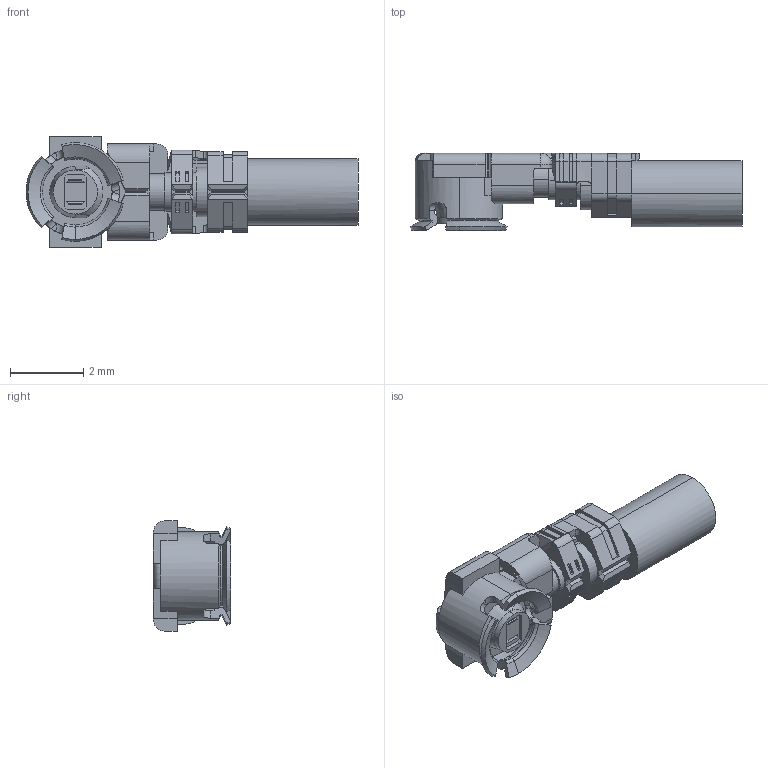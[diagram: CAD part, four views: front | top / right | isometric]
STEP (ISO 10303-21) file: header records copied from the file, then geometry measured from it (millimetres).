
FILE_DESCRIPTION (( 'STEP AP203' ), '1' );
FILE_NAME ('20278-1xxR-18C PLUG R15 STEP ALL.STEP', '2018-07-04T02:14:03', ( '' ), ( '' ), 'SwSTEP 2.0', 'SolidWorks 2017', '' );
FILE_SCHEMA (( 'CONFIG_CONTROL_DESIGN' ));
Length unit declared in the file: millimetre
Products named in the file (1): 20278-1xxR-18C PLUG R15 STEP ALL
Bounding box: 9.04 x 2.1 x 3 mm (x, y, z)
Volume: 26.3 mm3; surface area: 90.6 mm2
Topology: 1 solids, 1 shells, 388 faces, 1060 edges, 683 vertices
Faces by surface type: plane 215, cylinder 91, bspline 47, cone 22, torus 11, sphere 2
Entity records: 13886 total; most frequent: CARTESIAN_POINT 4338, ORIENTED_EDGE 2112, DIRECTION 1767, EDGE_CURVE 1056, LINE 691, VECTOR 691, VERTEX_POINT 683, AXIS2_PLACEMENT_3D 538
